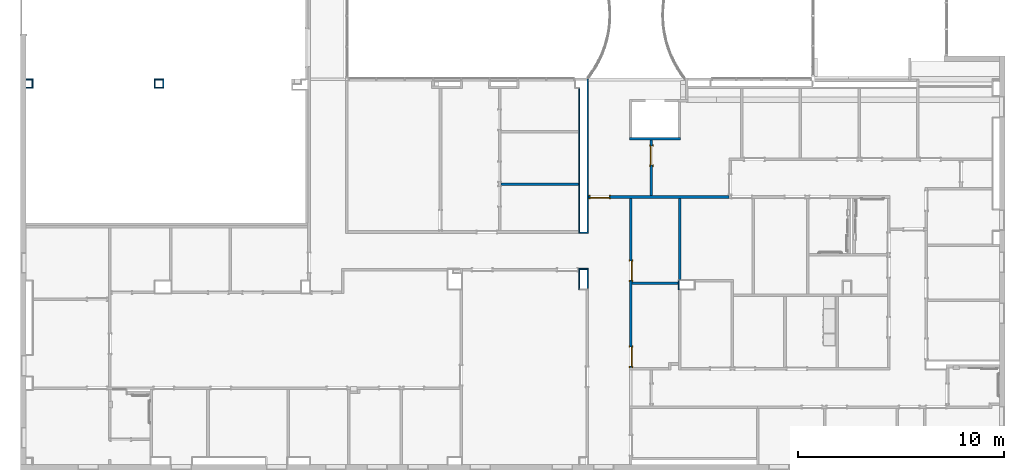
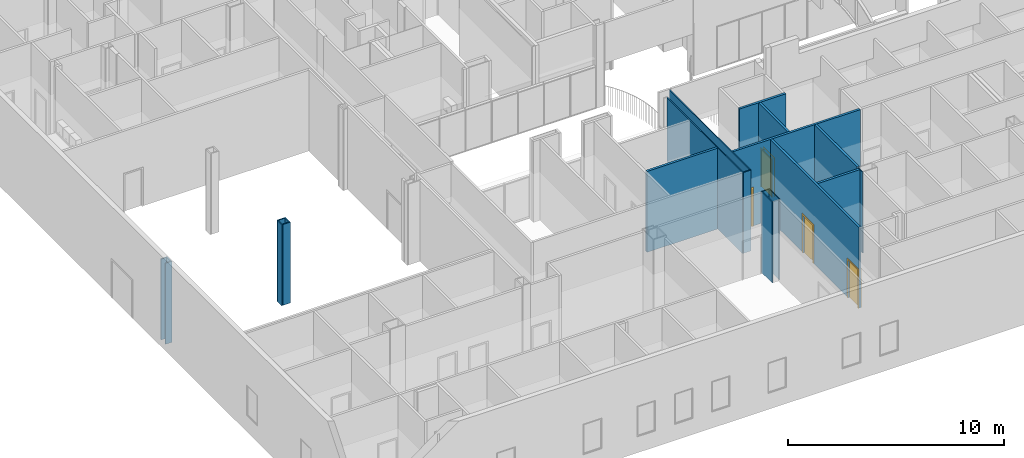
# One storey, part 10 of 47: 21 walls, 4 doors, 4 openings.
"""IFC2X3 building model written with IfcOpenShell, lengths in metres."""

from ifc_helpers import new_model, entity, si_unit, converted_unit, frame, frame_2d, origin, origin_2d_with_axis, place, context, project, spatial, polyline, rectangle, outline, extrude, source, transform, mapped, material, layer, layer_set, layer_usage, type_object, type_shapes, element, fill, save


model = new_model("IFC2X3")

# Units and contexts
model_context = context("Model", 3, precision=1e-09, world=origin())
plan_context = context("Plan", 3, precision=1e-09, world=origin())
ifc_project = project(units=[si_unit("LENGTHUNIT", "METRE"), si_unit("AREAUNIT", "SQUARE_METRE"), si_unit("VOLUMEUNIT", "CUBIC_METRE"), converted_unit("PLANEANGLEUNIT", "DEGREE", entity("IfcRatioMeasure", 0.01745329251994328), si_unit("PLANEANGLEUNIT", "RADIAN"), dimensions=[0, 0, 0, 0, 0, 0, 0]), si_unit("TIMEUNIT", "SECOND")], contexts=[model_context, plan_context])

# Site, building, storey
site_placement = place(None, origin())
site = spatial("IfcSite", under=ifc_project, at=site_placement, Name="Default", CompositionType="ELEMENT")
building_placement = place(site_placement, origin())
building = spatial("IfcBuilding", under=site, at=building_placement, CompositionType="ELEMENT")
storey_placement = place(building_placement, frame((0.0, 0.0, 4.570000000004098)))
storey = spatial("IfcBuildingStorey", under=building, at=storey_placement, Name="Second Floor", CompositionType="ELEMENT", Elevation=4.570000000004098)

# Walls
ifc_material_1 = material(Name="Plasterboard")
ifc_layer_1 = layer(ifc_material_1, 0.016)
ifc_material_2 = material(Name="Metal - Stud Layer")
ifc_layer_2 = layer(ifc_material_2, 0.092)
ifc_layer_3 = layer(ifc_material_1, 0.016)
ifc_layer_set_1 = layer_set([ifc_layer_1, ifc_layer_2, ifc_layer_3], Name="Basic Wall:Interior - Partition (92mm Stud)")
ifc_layer_usage_1 = layer_usage(ifc_layer_set_1, "AXIS2", "NEGATIVE", 0.062)
wall_1_placement = place(storey_placement, frame((-24.0710000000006, 23.5224387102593, 0.0)))
element("IfcWallStandardCase", 1, at=wall_1_placement, inside=storey, material=ifc_layer_usage_1, Name="Basic Wall:Interior - Partition (92mm Stud)", ObjectType="Basic Wall:Interior - Partition (92mm Stud)", context=model_context, shape_type="SweptSolid", body=[
    extrude(rectangle(XDim=3.781000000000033, YDim=0.1239999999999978, at=frame_2d((1.890500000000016, 0.0), x_axis=(-1.0, 0.0))), origin(), (0.0, 0.0, 1.0), 4.577999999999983),
])
ifc_material_3 = material(Name="Type-X Plasterboard")
ifc_layer_4 = layer(ifc_material_3, 0.016)
ifc_layer_5 = layer(ifc_material_2, 0.092)
ifc_layer_6 = layer(ifc_material_3, 0.016)
ifc_layer_set_2 = layer_set([ifc_layer_4, ifc_layer_5, ifc_layer_6], Name="Basic Wall:Interior - Rated 1-HR (92mm Stud)")
ifc_layer_usage_2 = layer_usage(ifc_layer_set_2, "AXIS2", "NEGATIVE", 0.06200000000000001)
wall_2_placement = place(storey_placement, frame((-15.34600000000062, 25.74539999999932, 0.0), z_axis=(0.0, 0.0, 1.0), x_axis=(-1.0, 0.0, 0.0)))
element("IfcWallStandardCase", 2, at=wall_2_placement, inside=storey, material=ifc_layer_usage_2, Name="Basic Wall:Interior - Rated 1-HR (92mm Stud)", ObjectType="Basic Wall:Interior - Rated 1-HR (92mm Stud)", context=model_context, shape_type="SweptSolid", body=[
    extrude(rectangle(XDim=2.483199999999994, YDim=0.1239999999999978, at=frame_2d((1.241599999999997, 0.0), x_axis=(-1.0, 0.0))), origin(), (0.0, 0.0, 1.0), 4.577999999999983),
])

# Wall, openings, doors
ifc_layer_usage_3 = layer_usage(ifc_layer_set_1, "AXIS2", "NEGATIVE", 0.062)
wall_3_placement = place(storey_placement, frame((-17.76800000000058, 14.64843871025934, 0.0), z_axis=(0.0, 0.0, 1.0), x_axis=(0.0, 1.0, 0.0)))
wall_3 = element("IfcWallStandardCase", 3, at=wall_3_placement, inside=storey, material=ifc_layer_usage_3, Name="Basic Wall:Interior - Partition (92mm Stud)", ObjectType="Basic Wall:Interior - Partition (92mm Stud)", context=model_context, shape_type="SweptSolid", body=[
    extrude(rectangle(XDim=8.202000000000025, YDim=0.1240000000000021, at=frame_2d((4.101000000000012, 0.0), x_axis=(-1.0, 0.0))), origin(), (0.0, 0.0, 1.0), 4.577999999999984),
])
opening_1_placement = place(wall_3_placement, frame((0.9750000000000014, 0.06200000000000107, 0.0)))
opening_1 = element("IfcOpeningElement", 4, at=opening_1_placement, cuts=wall_3, Name="M_Single-Flush:0915 x 2134mm:0915 x 2134mm:1", ObjectType="Opening", context=model_context, shape_type="SweptSolid", body=[
    extrude(rectangle(XDim=0.9149999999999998, YDim=2.134, at=frame_2d((1.067, 0.4575), x_axis=(0.0, 1.0))), frame((0.0, 0.0, 0.0), z_axis=(0.0, -1.0, 0.0), x_axis=(0.0, 0.0, 1.0)), (0.0, 0.0, 1.0), 0.124),
])
opening_2_placement = place(wall_3_placement, frame((5.15101534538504, 0.06199999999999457, 0.0)))
opening_2 = element("IfcOpeningElement", 5, at=opening_2_placement, cuts=wall_3, Name="M_Single-Flush:0915 x 2134mm:0915 x 2134mm:1", ObjectType="Opening", context=model_context, shape_type="SweptSolid", body=[
    extrude(rectangle(XDim=0.9149999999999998, YDim=2.134, at=frame_2d((1.067, 0.4575), x_axis=(0.0, 1.0))), frame((0.0, 0.0, 0.0), z_axis=(0.0, -1.0, 0.0), x_axis=(0.0, 0.0, 1.0)), (0.0, 0.0, 1.0), 0.124),
])
door_style = type_object("IfcDoorStyle", Name="0915 x 2134mm", ConstructionType="NOTDEFINED", OperationType="SINGLE_SWING_RIGHT", ParameterTakesPrecedence=False, Sizeable=False)
shared_shape = source(origin(), model_context, "Body", "SweptSolid", [
    extrude(outline(polyline([(-0.5335, -1.123999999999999), (0.5334999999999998, -1.123999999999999), (0.5334999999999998, 1.086), (0.4574999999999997, 1.086), (0.4574999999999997, -1.048000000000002), (-0.4574999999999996, -1.048000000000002), (-0.4574999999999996, 1.086), (-0.5335, 1.086), (-0.5335, -1.123999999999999)])), frame((0.4575000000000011, 0.1239999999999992, 1.086), z_axis=(0.0, 1.0, 0.0), x_axis=(1.0, 0.0, 0.0)), (0.0, 0.0, 1.0), 0.02499999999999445),
    extrude(outline(polyline([(-1.123999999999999, -0.5334999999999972), (1.085999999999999, -0.5334999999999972), (1.085999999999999, -0.4575000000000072), (-1.048, -0.4575000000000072), (-1.048, 0.4575000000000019), (1.085999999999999, 0.4575000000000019), (1.085999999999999, 0.5335000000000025), (-1.123999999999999, 0.5335000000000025), (-1.123999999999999, -0.5334999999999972)])), frame((0.4575000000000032, -0.02500000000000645, 1.085999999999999), z_axis=(0.0, 1.0, 0.0), x_axis=(0.0, 0.0, -1.0)), (0.0, 0.0, 1.0), 0.02500000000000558),
    extrude(rectangle(XDim=0.051, YDim=0.9149999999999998, at=origin_2d_with_axis()), frame((0.4575000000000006, 0.09849999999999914, 0.0), z_axis=(0.0, 0.0, 1.0), x_axis=(0.0, 1.0, 0.0)), (0.0, 0.0, 1.0), 2.133999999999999),
])
type_shapes(door_style, [shared_shape])
door_1_placement = place(opening_1_placement, frame((0.0, 0.0, 0.0), z_axis=(0.0, 0.0, 1.0), x_axis=(-1.0, 0.0, 0.0)))
door_1 = element("IfcDoor", 6, at=door_1_placement, inside=storey, type_object=door_style, Name="M_Single-Flush:0915 x 2134mm:0915 x 2134mm", ObjectType="0915 x 2134mm", OverallHeight=2.134, OverallWidth=0.9149999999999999, context=model_context, shape_type="MappedRepresentation", body=[
    mapped(shared_shape, transform((0.0, 0.0, 0.0), scale=1.0)),
])
fill(opening_1, door_1)
door_2_placement = place(opening_2_placement, frame((0.0, 0.0, 0.0), z_axis=(0.0, 0.0, 1.0), x_axis=(-1.0, 0.0, 0.0)))
door_2 = element("IfcDoor", 7, at=door_2_placement, inside=storey, type_object=door_style, Name="M_Single-Flush:0915 x 2134mm:0915 x 2134mm", ObjectType="0915 x 2134mm", OverallHeight=2.134, OverallWidth=0.9149999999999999, context=model_context, shape_type="MappedRepresentation", body=[
    mapped(shared_shape, transform((0.0, 0.0, 0.0), scale=1.0)),
])
fill(opening_2, door_2)

# Wall, opening, door
ifc_layer_usage_4 = layer_usage(ifc_layer_set_1, "AXIS2", "NEGATIVE", 0.062)
wall_4_placement = place(storey_placement, frame((-13.01000000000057, 22.91243871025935, 0.0), z_axis=(0.0, 0.0, 1.0), x_axis=(-1.0, 0.0, 0.0)))
wall_4 = element("IfcWallStandardCase", 8, at=wall_4_placement, inside=storey, material=ifc_layer_usage_4, Name="Basic Wall:Interior - Partition (92mm Stud)", ObjectType="Basic Wall:Interior - Partition (92mm Stud)", context=model_context, shape_type="SweptSolid", body=[
    extrude(rectangle(XDim=6.819999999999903, YDim=0.1239999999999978, at=frame_2d((3.409999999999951, 0.0), x_axis=(-1.0, 0.0))), origin(), (0.0, 0.0, 1.0), 4.577999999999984),
])
opening_3_placement = place(wall_4_placement, frame((5.805000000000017, -0.06200000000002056, 0.0)))
opening_3 = element("IfcOpeningElement", 9, at=opening_3_placement, cuts=wall_4, Name="M_Single-Flush:0915 x 2134mm:0915 x 2134mm:1", ObjectType="Opening", context=model_context, shape_type="SweptSolid", body=[
    extrude(rectangle(XDim=0.9149999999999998, YDim=2.134, at=frame_2d((1.067, 0.4574999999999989), x_axis=(0.0, 1.0))), frame((0.0, 0.0, 0.0), z_axis=(0.0, 1.0, 0.0), x_axis=(0.0, 0.0, 1.0)), (0.0, 0.0, 1.0), 0.124),
])
door_3_placement = place(opening_3_placement, origin())
door_3 = element("IfcDoor", 10, at=door_3_placement, inside=storey, type_object=door_style, Name="M_Single-Flush:0915 x 2134mm:0915 x 2134mm", ObjectType="0915 x 2134mm", OverallHeight=2.134, OverallWidth=0.9149999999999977, context=model_context, shape_type="MappedRepresentation", body=[
    mapped(shared_shape, transform((0.0, 0.0, 0.0), scale=1.0)),
])
fill(opening_3, door_3)

ifc_layer_usage_5 = layer_usage(ifc_layer_set_1, "AXIS2", "NEGATIVE", 0.062)
wall_5_placement = place(storey_placement, frame((-16.76800000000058, 22.97443871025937, 0.0), z_axis=(0.0, 0.0, 1.0), x_axis=(0.0, 1.0, 0.0)))
wall_5 = element("IfcWallStandardCase", 11, at=wall_5_placement, inside=storey, material=ifc_layer_usage_5, Name="Basic Wall:Interior - Partition (92mm Stud)", ObjectType="Basic Wall:Interior - Partition (92mm Stud)", context=model_context, shape_type="SweptSolid", body=[
    extrude(rectangle(XDim=2.708961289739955, YDim=0.1240000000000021, at=frame_2d((1.354480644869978, 0.0), x_axis=(-1.0, 0.0))), origin(), (0.0, 0.0, 1.0), 4.577999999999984),
])
opening_4_placement = place(wall_5_placement, frame((1.495000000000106, -0.06200000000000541, 0.0)))
opening_4 = element("IfcOpeningElement", 12, at=opening_4_placement, cuts=wall_5, Name="M_Single-Flush:0915 x 2134mm:0915 x 2134mm:1", ObjectType="Opening", context=model_context, shape_type="SweptSolid", body=[
    extrude(rectangle(XDim=0.9149999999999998, YDim=2.134, at=frame_2d((1.067, 0.4575), x_axis=(0.0, 1.0))), frame((0.0, 0.0, 0.0), z_axis=(0.0, 1.0, 0.0), x_axis=(0.0, 0.0, 1.0)), (0.0, 0.0, 1.0), 0.124),
])
door_4_placement = place(opening_4_placement, origin())
door_4 = element("IfcDoor", 13, at=door_4_placement, inside=storey, type_object=door_style, Name="M_Single-Flush:0915 x 2134mm:0915 x 2134mm", ObjectType="0915 x 2134mm", OverallHeight=2.134, OverallWidth=0.9149999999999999, context=model_context, shape_type="MappedRepresentation", body=[
    mapped(shared_shape, transform((0.0, 0.0, 0.0), scale=1.0)),
])
fill(opening_4, door_4)

# Walls
ifc_layer_usage_6 = layer_usage(ifc_layer_set_1, "AXIS2", "NEGATIVE", 0.062)
wall_6_placement = place(storey_placement, frame((-17.70600000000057, 18.72245405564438, 0.0)))
element("IfcWallStandardCase", 14, at=wall_6_placement, inside=storey, material=ifc_layer_usage_6, Name="Basic Wall:Interior - Partition (92mm Stud)", ObjectType="Basic Wall:Interior - Partition (92mm Stud)", context=model_context, shape_type="SweptSolid", body=[
    extrude(rectangle(XDim=2.246000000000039, YDim=0.1240000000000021, at=frame_2d((1.12300000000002, 0.0), x_axis=(-1.0, 0.0))), origin(), (0.0, 0.0, 1.0), 4.577999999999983),
])
ifc_layer_7 = layer(ifc_material_2, 0.038)
ifc_layer_8 = layer(ifc_material_1, 0.016)
ifc_layer_set_3 = layer_set([ifc_layer_7, ifc_layer_8], Name="Basic Wall:Interior - Furring (38 mm Stud)")
ifc_layer_usage_7 = layer_usage(ifc_layer_set_3, "AXIS2", "NEGATIVE", 0.027)
wall_7_placement = place(storey_placement, frame((-20.26300000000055, 28.18443871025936, 0.0), z_axis=(0.0, 0.0, 1.0), x_axis=(0.0, -1.0, 0.0)))
element("IfcWallStandardCase", 15, at=wall_7_placement, inside=storey, material=ifc_layer_usage_7, Name="Basic Wall:Interior - Furring (38 mm Stud)", ObjectType="Basic Wall:Interior - Furring (38 mm Stud)", context=model_context, shape_type="SweptSolid", body=[
    extrude(rectangle(XDim=7.03000000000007, YDim=0.05399999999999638, at=frame_2d((3.515000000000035, 0.0), x_axis=(-1.0, 0.0))), origin(), (0.0, 0.0, 1.0), 4.577999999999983),
])
ifc_layer_usage_8 = layer_usage(ifc_layer_set_3, "AXIS2", "NEGATIVE", 0.027)
wall_8_placement = place(storey_placement, frame((-20.23600000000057, 21.1814387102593, 0.0)))
element("IfcWallStandardCase", 16, at=wall_8_placement, inside=storey, material=ifc_layer_usage_8, Name="Basic Wall:Interior - Furring (38 mm Stud)", ObjectType="Basic Wall:Interior - Furring (38 mm Stud)", context=model_context, shape_type="SweptSolid", body=[
    extrude(rectangle(XDim=0.4060000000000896, YDim=0.05399999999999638, at=frame_2d((0.2030000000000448, 0.0), x_axis=(-1.0, 0.0))), origin(), (0.0, 0.0, 1.0), 4.577999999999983),
])
ifc_layer_usage_9 = layer_usage(ifc_layer_set_3, "AXIS2", "NEGATIVE", 0.027)
wall_9_placement = place(storey_placement, frame((-19.85700000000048, 21.20843871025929, 0.0), z_axis=(0.0, 0.0, 1.0), x_axis=(0.0, 1.0, 0.0)))
element("IfcWallStandardCase", 17, at=wall_9_placement, inside=storey, material=ifc_layer_usage_9, Name="Basic Wall:Interior - Furring (38 mm Stud)", ObjectType="Basic Wall:Interior - Furring (38 mm Stud)", context=model_context, shape_type="SweptSolid", body=[
    extrude(rectangle(XDim=7.481759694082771, YDim=0.05399999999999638, at=frame_2d((3.740879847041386, 0.0), x_axis=(-1.0, 0.0))), origin(), (0.0, 0.0, 1.0), 4.577999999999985),
])
ifc_layer_usage_10 = layer_usage(ifc_layer_set_3, "AXIS2", "POSITIVE", -0.027)
wall_10_placement = place(storey_placement, frame((-20.29000000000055, 19.4174387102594, 0.0)))
element("IfcWallStandardCase", 18, at=wall_10_placement, inside=storey, material=ifc_layer_usage_10, Name="Basic Wall:Interior - Furring (38 mm Stud)", ObjectType="Basic Wall:Interior - Furring (38 mm Stud)", context=model_context, shape_type="SweptSolid", body=[
    extrude(rectangle(XDim=0.4059999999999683, YDim=0.05400000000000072, at=frame_2d((0.2029999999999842, 0.0), x_axis=(-1.0, 0.0))), origin(), (0.0, 0.0, 1.0), 4.577999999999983),
])
ifc_layer_usage_11 = layer_usage(ifc_layer_set_3, "AXIS2", "POSITIVE", -0.027)
wall_11_placement = place(storey_placement, frame((-20.26300000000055, 18.41443871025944, 0.0), z_axis=(0.0, 0.0, 1.0), x_axis=(0.0, 1.0, 0.0)))
element("IfcWallStandardCase", 19, at=wall_11_placement, inside=storey, material=ifc_layer_usage_11, Name="Basic Wall:Interior - Furring (38 mm Stud)", ObjectType="Basic Wall:Interior - Furring (38 mm Stud)", context=model_context, shape_type="SweptSolid", body=[
    extrude(rectangle(XDim=0.9759999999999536, YDim=0.05399999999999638, at=frame_2d((0.4879999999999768, 0.0), x_axis=(-1.0, 0.0))), origin(), (0.0, 0.0, 1.0), 4.577999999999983),
])
ifc_layer_usage_12 = layer_usage(ifc_layer_set_3, "AXIS2", "POSITIVE", -0.027)
wall_12_placement = place(storey_placement, frame((-19.85700000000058, 19.4444387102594, 0.0), z_axis=(0.0, 0.0, 1.0), x_axis=(0.0, -1.0, 0.0)))
element("IfcWallStandardCase", 20, at=wall_12_placement, inside=storey, material=ifc_layer_usage_12, Name="Basic Wall:Interior - Furring (38 mm Stud)", ObjectType="Basic Wall:Interior - Furring (38 mm Stud)", context=model_context, shape_type="SweptSolid", body=[
    extrude(rectangle(XDim=0.9759999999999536, YDim=0.05399999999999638, at=frame_2d((0.4879999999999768, 0.0), x_axis=(-1.0, 0.0))), origin(), (0.0, 0.0, 1.0), 4.577999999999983),
])
ifc_layer_usage_13 = layer_usage(ifc_layer_set_1, "AXIS2", "NEGATIVE", 0.062)
wall_13_placement = place(storey_placement, frame((-15.39800000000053, 18.90443871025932, 0.0), z_axis=(0.0, 0.0, 1.0), x_axis=(0.0, 1.0, 0.0)))
element("IfcWallStandardCase", 21, at=wall_13_placement, inside=storey, material=ifc_layer_usage_13, Name="Basic Wall:Interior - Partition (92mm Stud)", ObjectType="Basic Wall:Interior - Partition (92mm Stud)", context=model_context, shape_type="SweptSolid", body=[
    extrude(rectangle(XDim=3.946000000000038, YDim=0.1240000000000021, at=frame_2d((1.973000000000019, 0.0), x_axis=(-1.0, 0.0))), origin(), (0.0, 0.0, 1.0), 4.577999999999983),
])
ifc_layer_usage_14 = layer_usage(ifc_layer_set_3, "AXIS2", "POSITIVE", -0.027)
wall_14_placement = place(storey_placement, frame((-15.43300000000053, 18.41443871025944, 0.0), z_axis=(0.0, 0.0, 1.0), x_axis=(0.0, 1.0, 0.0)))
element("IfcWallStandardCase", 22, at=wall_14_placement, inside=storey, material=ifc_layer_usage_14, Name="Basic Wall:Interior - Furring (38 mm Stud)", ObjectType="Basic Wall:Interior - Furring (38 mm Stud)", context=model_context, shape_type="SweptSolid", body=[
    extrude(rectangle(XDim=0.4359999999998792, YDim=0.05400000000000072, at=frame_2d((0.2179999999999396, 0.0), x_axis=(-1.0, 0.0))), origin(), (0.0, 0.0, 1.0), 4.577999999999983),
])
ifc_layer_usage_15 = layer_usage(ifc_layer_set_3, "AXIS2", "POSITIVE", -0.027)
wall_15_placement = place(storey_placement, frame((-40.89000000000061, 28.61743871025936, 0.0)))
element("IfcWallStandardCase", 23, at=wall_15_placement, inside=storey, material=ifc_layer_usage_15, Name="Basic Wall:Interior - Furring (38 mm Stud)", ObjectType="Basic Wall:Interior - Furring (38 mm Stud)", context=model_context, shape_type="SweptSolid", body=[
    extrude(rectangle(XDim=0.4060000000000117, YDim=0.05399999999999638, at=frame_2d((0.2030000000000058, 0.0), x_axis=(-1.0, 0.0))), origin(), (0.0, 0.0, 1.0), 4.577999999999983),
])
ifc_layer_usage_16 = layer_usage(ifc_layer_set_3, "AXIS2", "POSITIVE", -0.027)
wall_16_placement = place(storey_placement, frame((-40.8630000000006, 28.18443871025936, 0.0), z_axis=(0.0, 0.0, 1.0), x_axis=(0.0, 1.0, 0.0)))
element("IfcWallStandardCase", 24, at=wall_16_placement, inside=storey, material=ifc_layer_usage_16, Name="Basic Wall:Interior - Furring (38 mm Stud)", ObjectType="Basic Wall:Interior - Furring (38 mm Stud)", context=model_context, shape_type="SweptSolid", body=[
    extrude(rectangle(XDim=0.4059999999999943, YDim=0.05400000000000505, at=frame_2d((0.2029999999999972, 0.0), x_axis=(-1.0, 0.0))), origin(), (0.0, 0.0, 1.0), 4.577999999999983),
])
ifc_layer_usage_17 = layer_usage(ifc_layer_set_3, "AXIS2", "POSITIVE", -0.027)
wall_17_placement = place(storey_placement, frame((-40.4300000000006, 28.21143871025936, 0.0), z_axis=(0.0, 0.0, 1.0), x_axis=(-1.0, 0.0, 0.0)))
element("IfcWallStandardCase", 25, at=wall_17_placement, inside=storey, material=ifc_layer_usage_17, Name="Basic Wall:Interior - Furring (38 mm Stud)", ObjectType="Basic Wall:Interior - Furring (38 mm Stud)", context=model_context, shape_type="SweptSolid", body=[
    extrude(rectangle(XDim=0.406000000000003, YDim=0.05399999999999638, at=frame_2d((0.2030000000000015, 0.0), x_axis=(-1.0, 0.0))), origin(), (0.0, 0.0, 1.0), 4.577999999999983),
])
ifc_layer_usage_18 = layer_usage(ifc_layer_set_3, "AXIS2", "POSITIVE", -0.027)
wall_18_placement = place(storey_placement, frame((-40.4570000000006, 28.64443871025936, 0.0), z_axis=(0.0, 0.0, 1.0), x_axis=(0.0, -1.0, 0.0)))
element("IfcWallStandardCase", 26, at=wall_18_placement, inside=storey, material=ifc_layer_usage_18, Name="Basic Wall:Interior - Furring (38 mm Stud)", ObjectType="Basic Wall:Interior - Furring (38 mm Stud)", context=model_context, shape_type="SweptSolid", body=[
    extrude(rectangle(XDim=0.4059999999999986, YDim=0.05400000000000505, at=frame_2d((0.2029999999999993, 0.0), x_axis=(-1.0, 0.0))), origin(), (0.0, 0.0, 1.0), 4.577999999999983),
])
ifc_layer_usage_19 = layer_usage(ifc_layer_set_3, "AXIS2", "NEGATIVE", 0.027)
wall_19_placement = place(storey_placement, frame((-47.1130000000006, 28.21143871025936, 0.0)))
element("IfcWallStandardCase", 27, at=wall_19_placement, inside=storey, material=ifc_layer_usage_19, Name="Basic Wall:Interior - Furring (38 mm Stud)", ObjectType="Basic Wall:Interior - Furring (38 mm Stud)", context=model_context, shape_type="SweptSolid", body=[
    extrude(rectangle(XDim=0.343000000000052, YDim=0.05399999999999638, at=frame_2d((0.171500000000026, 0.0), x_axis=(-1.0, 0.0))), origin(), (0.0, 0.0, 1.0), 4.577999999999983),
])
ifc_layer_usage_20 = layer_usage(ifc_layer_set_3, "AXIS2", "NEGATIVE", 0.027)
wall_20_placement = place(storey_placement, frame((-46.79700000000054, 28.23843871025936, 0.0), z_axis=(0.0, 0.0, 1.0), x_axis=(0.0, 1.0, 0.0)))
element("IfcWallStandardCase", 28, at=wall_20_placement, inside=storey, material=ifc_layer_usage_20, Name="Basic Wall:Interior - Furring (38 mm Stud)", ObjectType="Basic Wall:Interior - Furring (38 mm Stud)", context=model_context, shape_type="SweptSolid", body=[
    extrude(rectangle(XDim=0.4060000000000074, YDim=0.05400000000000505, at=frame_2d((0.2030000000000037, 0.0), x_axis=(-1.0, 0.0))), origin(), (0.0, 0.0, 1.0), 4.577999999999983),
])
ifc_layer_usage_21 = layer_usage(ifc_layer_set_3, "AXIS2", "NEGATIVE", 0.027)
wall_21_placement = place(storey_placement, frame((-46.82400000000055, 28.61743871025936, 0.0), z_axis=(0.0, 0.0, 1.0), x_axis=(-1.0, 0.0, 0.0)))
element("IfcWallStandardCase", 29, at=wall_21_placement, inside=storey, material=ifc_layer_usage_21, Name="Basic Wall:Interior - Furring (38 mm Stud)", ObjectType="Basic Wall:Interior - Furring (38 mm Stud)", context=model_context, shape_type="SweptSolid", body=[
    extrude(rectangle(XDim=0.2890000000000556, YDim=0.05399999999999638, at=frame_2d((0.1445000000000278, 0.0), x_axis=(-1.0, 0.0))), origin(), (0.0, 0.0, 1.0), 4.577999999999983),
])

save(model, "model.ifc")
